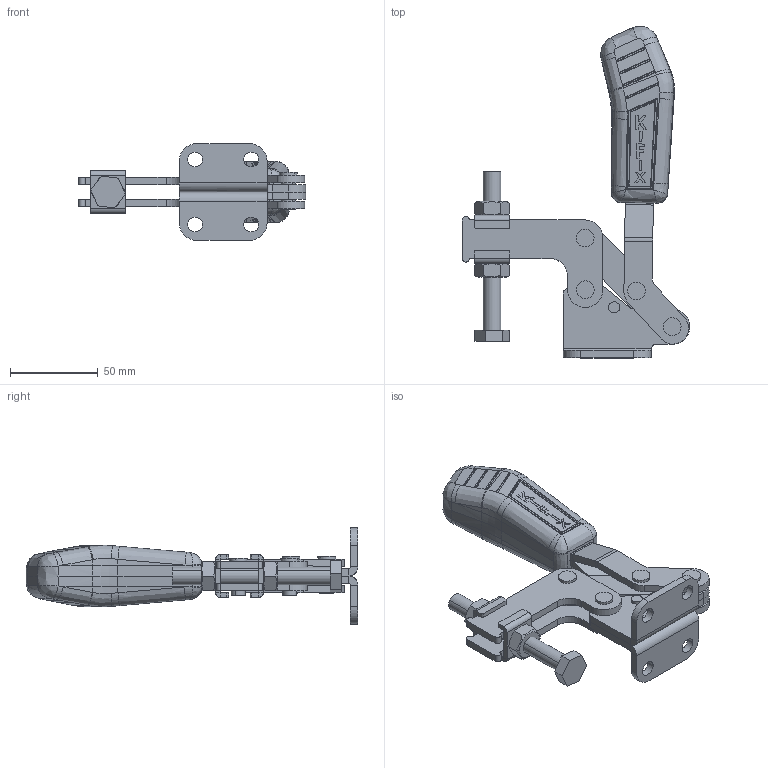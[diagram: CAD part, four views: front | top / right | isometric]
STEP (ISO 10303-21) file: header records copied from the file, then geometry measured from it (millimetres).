
FILE_DESCRIPTION (( 'STEP AP203' ), '1' );
FILE_NAME ('KF-631 DI.STEP', '2018-11-28T17:30:39', ( 'Ricardo' ), ( '' ), 'SwSTEP 2.0', 'SolidWorks 2018', '' );
FILE_SCHEMA (( 'CONFIG_CONTROL_DESIGN' ));
Length unit declared in the file: millimetre
Products named in the file (13): 12.50021; 11.50003; 3670000087; 02.12035_Direita; 01.10016_Direita; 02.12035_Esquerda; 01.10016_Esquerda; 03.13018; 3670000086; 08.10008; KF-631 DI; 07.60002; 14.10003
Assembly tree (19 placements, depth 2):
  KF-631 DI
    02.12035_Direita
    02.12035_Esquerda
    03.13018  x2
    08.10008  x2
    07.60002
    14.10003  x2
    12.50021
    11.50003  x2
    3670000087
    01.10016_Direita
    01.10016_Esquerda
    3670000086  x4
Bounding box: 129.5 x 188.93 x 55 mm (x, y, z)
Volume: 177220.8 mm3; surface area: 74617.7 mm2
Topology: 19 solids, 19 shells, 713 faces, 1770 edges, 1109 vertices
Faces by surface type: plane 281, cylinder 198, bspline 159, sphere 52, cone 20, torus 3
Entity records: 24061 total; most frequent: CARTESIAN_POINT 9004, ORIENTED_EDGE 3072, DIRECTION 2419, EDGE_CURVE 1536, VERTEX_POINT 965, AXIS2_PLACEMENT_3D 913, EDGE_LOOP 685, FACE_OUTER_BOUND 618
